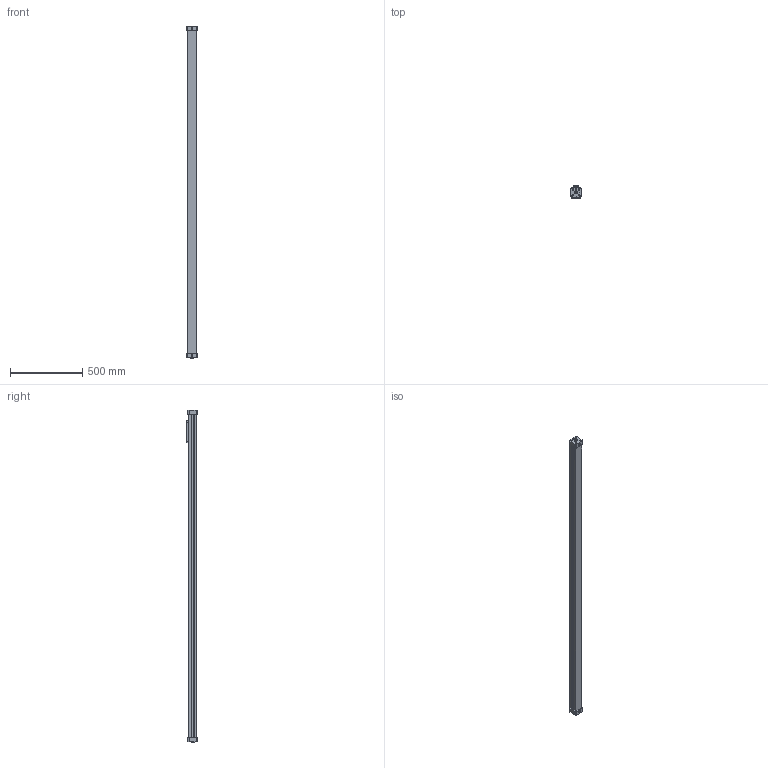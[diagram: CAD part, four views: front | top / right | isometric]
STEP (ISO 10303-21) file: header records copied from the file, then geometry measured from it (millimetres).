
FILE_DESCRIPTION (( 'STEP AP203' ), '1' );
FILE_NAME ('RLF40.2000.STEP', '2005-12-19T16:52:50', ( 'Vesta Automation srl' ), ( 'Vesta Automation srl' ), 'SwSTEP 2.0', 'SolidWorks 2005187', '' );
FILE_SCHEMA (( 'CONFIG_CONTROL_DESIGN' ));
Products named in the file (6): CARRIAGE-RLFØ40; SEALING BAND-RLFØ40_STROKE 2000; RLF40.2000; FRONT END CAP-RLFØ40; REAR END CAP-RLFØ40; BARREL-RLFØ40_STROKE 2000
Assembly tree (5 placements, depth 2):
  RLF40.2000
    SEALING BAND-RLFØ40_STROKE 2000
    REAR END CAP-RLFØ40
    CARRIAGE-RLFØ40
    BARREL-RLFØ40_STROKE 2000
    FRONT END CAP-RLFØ40
Bounding box: 72 x 80 x 2302 mm (x, y, z)
Volume: 5093678.9 mm3; surface area: 1035329.4 mm2
Topology: 5 solids, 5 shells, 1569 faces, 3490 edges, 2024 vertices
Faces by surface type: cone 940, plane 438, cylinder 191
Entity records: 43264 total; most frequent: DIRECTION 8020, CARTESIAN_POINT 7091, ORIENTED_EDGE 6980, EDGE_CURVE 3490, AXIS2_PLACEMENT_3D 2953, VECTOR 2114, LINE 2114, VERTEX_POINT 2024
